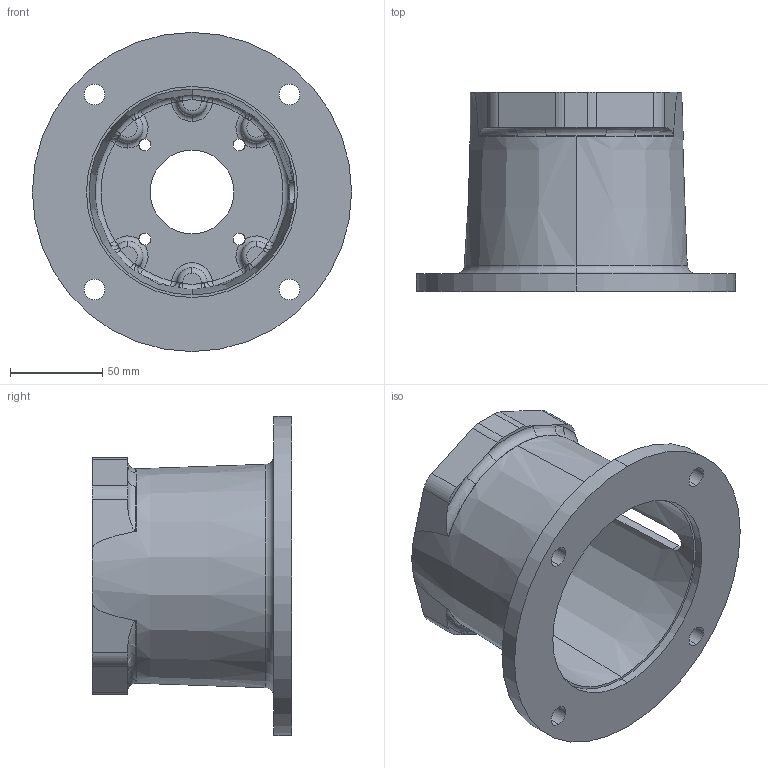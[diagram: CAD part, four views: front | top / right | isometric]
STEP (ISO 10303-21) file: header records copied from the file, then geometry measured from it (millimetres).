
FILE_DESCRIPTION (( 'STEP AP203' ), '1' );
FILE_NAME ('M056424F.STEP', '2008-05-16T19:24:06', ( 'Chris McCoy' ), ( 'Magnaloy Coupling Co' ), 'SwSTEP 2.0', 'SolidWorks 2008', '' );
FILE_SCHEMA (( 'CONFIG_CONTROL_DESIGN' ));
Length unit declared in the file: inch
Products named in the file (1): M056424F
Bounding box: 172.97 x 107.95 x 172.97 mm (x, y, z)
Volume: 384532.3 mm3; surface area: 120755 mm2
Topology: 1 solids, 1 shells, 203 faces, 522 edges, 308 vertices
Faces by surface type: torus 56, cylinder 44, bspline 40, plane 29, sphere 24, cone 10
Entity records: 7867 total; most frequent: CARTESIAN_POINT 2990, DIRECTION 1062, ORIENTED_EDGE 1020, EDGE_CURVE 510, AXIS2_PLACEMENT_3D 488, CIRCLE 324, VERTEX_POINT 308, EDGE_LOOP 222
